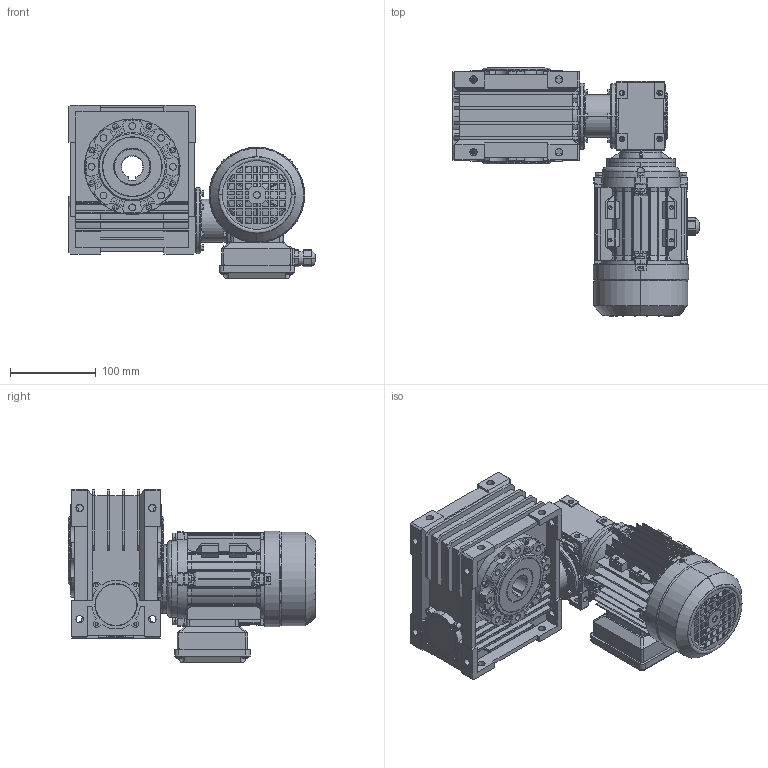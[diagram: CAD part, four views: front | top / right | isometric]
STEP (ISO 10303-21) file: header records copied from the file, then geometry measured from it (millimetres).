
FILE_DESCRIPTION (( 'STEP AP203' ), '1' );
FILE_NAME ('CMRV063-030-MX56.STEP', '2018-12-11T10:57:11', ( '' ), ( '' ), 'SwSTEP 2.0', 'SolidWorks 2012', '' );
FILE_SCHEMA (( 'CONFIG_CONTROL_DESIGN' ));
Products named in the file (12): CMRV063-030-MX56; MX56_B14; MS56_B14; FCENDK30-63-56B14-BS1; 8; 7; 6; 5; 3; 2; 1; 9
Assembly tree (11 placements, depth 3):
  CMRV063-030-MX56
    FCENDK30-63-56B14-BS1
      9
      1
      2
      3
      5
      6
      7
      8
    MX56_B14
      MS56_B14
Bounding box: 287.5 x 289.5 x 203 mm (x, y, z)
Volume: 2862305.2 mm3; surface area: 690060 mm2
Topology: 9 solids, 60 shells, 3865 faces, 10059 edges, 6508 vertices
Faces by surface type: plane 2226, cylinder 1195, cone 279, bspline 159, torus 6
Entity records: 125256 total; most frequent: CARTESIAN_POINT 28858, ORIENTED_EDGE 20054, DIRECTION 19547, EDGE_CURVE 10027, AXIS2_PLACEMENT_3D 6729, VERTEX_POINT 6508, LINE 6089, VECTOR 6089
